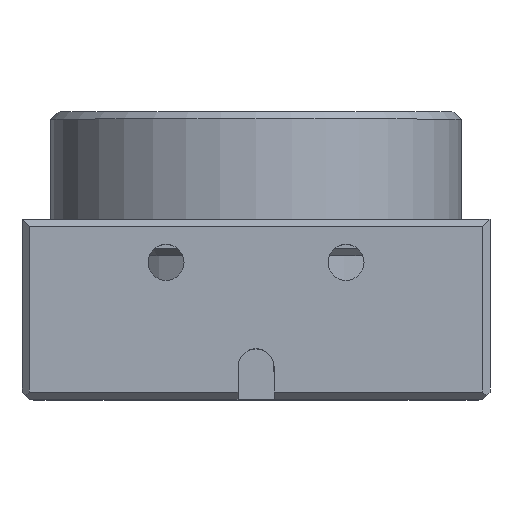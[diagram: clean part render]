
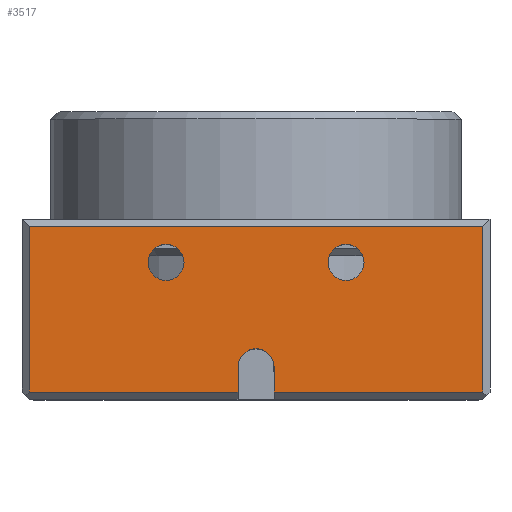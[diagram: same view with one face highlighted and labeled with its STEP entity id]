
A CAD part, top view. The second image highlights one B-rep face of the part: STEP entity #3517.
In plain terms, the highlighted planar face has unit normal (0, 0, 1).
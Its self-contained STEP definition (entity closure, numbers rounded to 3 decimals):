
#232 = LINE ( 'NONE', #4361, #1938 ) ;
#240 = EDGE_CURVE ( 'NONE', #940, #3441, #1480, .T. ) ;
#272 = CARTESIAN_POINT ( 'NONE',  ( -6.5, 5., 5.75 ) ) ;
#334 = AXIS2_PLACEMENT_3D ( 'NONE', #3247, #1044, #3622 ) ;
#402 = EDGE_CURVE ( 'NONE', #4690, #4542, #983, .T. ) ;
#421 = EDGE_LOOP ( 'NONE', ( #4445, #2403, #3190, #2863, #4264, #3535, #1925, #738 ) ) ;
#615 = DIRECTION ( 'NONE',  ( 0., 0., -1. ) ) ;
#617 = CARTESIAN_POINT ( 'NONE',  ( 0.5, 0.9, 5.75 ) ) ;
#619 = VERTEX_POINT ( 'NONE', #617 ) ;
#701 = ORIENTED_EDGE ( 'NONE', *, *, #4704, .F. ) ;
#738 = ORIENTED_EDGE ( 'NONE', *, *, #402, .T. ) ;
#771 = VECTOR ( 'NONE', #3850, 1000. ) ;
#781 = CARTESIAN_POINT ( 'NONE',  ( 2., 3.8, 5.75 ) ) ;
#785 = DIRECTION ( 'NONE',  ( 1., 0., 0. ) ) ;
#861 = DIRECTION ( 'NONE',  ( 0., -1., 0. ) ) ;
#934 = LINE ( 'NONE', #3410, #4625 ) ;
#940 = VERTEX_POINT ( 'NONE', #3873 ) ;
#983 = LINE ( 'NONE', #3518, #1961 ) ;
#1011 = CARTESIAN_POINT ( 'NONE',  ( 2.5, 3.8, 5.75 ) ) ;
#1044 = DIRECTION ( 'NONE',  ( 0., 0., 1. ) ) ;
#1174 = VERTEX_POINT ( 'NONE', #1603 ) ;
#1192 = EDGE_LOOP ( 'NONE', ( #4068, #701 ) ) ;
#1230 = CARTESIAN_POINT ( 'NONE',  ( -0.5, 0., 5.75 ) ) ;
#1355 = CARTESIAN_POINT ( 'NONE',  ( 6.3, 0.2, 5.75 ) ) ;
#1363 = DIRECTION ( 'NONE',  ( 1., 0., 0. ) ) ;
#1454 = CIRCLE ( 'NONE', #334, 0.5 ) ;
#1460 = DIRECTION ( 'NONE',  ( 0., 0., 1. ) ) ;
#1473 = VECTOR ( 'NONE', #785, 1000. ) ;
#1480 = CIRCLE ( 'NONE', #1706, 0.5 ) ;
#1545 = DIRECTION ( 'NONE',  ( 0., 0., 1. ) ) ;
#1593 = ORIENTED_EDGE ( 'NONE', *, *, #3132, .F. ) ;
#1603 = CARTESIAN_POINT ( 'NONE',  ( -0.5, 0.2, 5.75 ) ) ;
#1706 = AXIS2_PLACEMENT_3D ( 'NONE', #4133, #1545, #3760 ) ;
#1755 = ORIENTED_EDGE ( 'NONE', *, *, #240, .F. ) ;
#1759 = DIRECTION ( 'NONE',  ( 0., 1., 0. ) ) ;
#1809 = LINE ( 'NONE', #1355, #3540 ) ;
#1824 = EDGE_CURVE ( 'NONE', #3890, #4690, #1870, .T. ) ;
#1832 = VERTEX_POINT ( 'NONE', #3186 ) ;
#1870 = LINE ( 'NONE', #4317, #771 ) ;
#1925 = ORIENTED_EDGE ( 'NONE', *, *, #1824, .T. ) ;
#1930 = DIRECTION ( 'NONE',  ( 0., 1., 0. ) ) ;
#1938 = VECTOR ( 'NONE', #1759, 1000. ) ;
#1961 = VECTOR ( 'NONE', #2396, 1000. ) ;
#1983 = AXIS2_PLACEMENT_3D ( 'NONE', #272, #615, #3211 ) ;
#2052 = CARTESIAN_POINT ( 'NONE',  ( 0., 0.9, 5.75 ) ) ;
#2123 = EDGE_CURVE ( 'NONE', #4542, #1174, #1809, .T. ) ;
#2243 = EDGE_CURVE ( 'NONE', #2487, #2342, #3028, .T. ) ;
#2280 = FACE_OUTER_BOUND ( 'NONE', #421, .T. ) ;
#2342 = VERTEX_POINT ( 'NONE', #781 ) ;
#2396 = DIRECTION ( 'NONE',  ( 0., -1., 0. ) ) ;
#2403 = ORIENTED_EDGE ( 'NONE', *, *, #3920, .F. ) ;
#2418 = DIRECTION ( 'NONE',  ( 1., 0., 0. ) ) ;
#2420 = VERTEX_POINT ( 'NONE', #4548 ) ;
#2455 = LINE ( 'NONE', #2623, #1473 ) ;
#2458 = PLANE ( 'NONE',  #1983 ) ;
#2487 = VERTEX_POINT ( 'NONE', #2776 ) ;
#2518 = FACE_BOUND ( 'NONE', #1192, .T. ) ;
#2544 = EDGE_LOOP ( 'NONE', ( #1593, #1755 ) ) ;
#2623 = CARTESIAN_POINT ( 'NONE',  ( 6.3, 0.2, 5.75 ) ) ;
#2660 = EDGE_CURVE ( 'NONE', #2870, #3890, #934, .T. ) ;
#2776 = CARTESIAN_POINT ( 'NONE',  ( 3., 3.8, 5.75 ) ) ;
#2857 = AXIS2_PLACEMENT_3D ( 'NONE', #2052, #4635, #2418 ) ;
#2863 = ORIENTED_EDGE ( 'NONE', *, *, #3585, .F. ) ;
#2870 = VERTEX_POINT ( 'NONE', #3118 ) ;
#2926 = CIRCLE ( 'NONE', #2857, 0.5 ) ;
#2933 = CIRCLE ( 'NONE', #3661, 0.5 ) ;
#2988 = AXIS2_PLACEMENT_3D ( 'NONE', #1011, #3580, #1363 ) ;
#3028 = CIRCLE ( 'NONE', #2988, 0.5 ) ;
#3118 = CARTESIAN_POINT ( 'NONE',  ( 6.3, 0.2, 5.75 ) ) ;
#3132 = EDGE_CURVE ( 'NONE', #3441, #940, #2933, .T. ) ;
#3186 = CARTESIAN_POINT ( 'NONE',  ( -0.5, 0.9, 5.75 ) ) ;
#3190 = ORIENTED_EDGE ( 'NONE', *, *, #4077, .F. ) ;
#3211 = DIRECTION ( 'NONE',  ( -1., 0., 0. ) ) ;
#3247 = CARTESIAN_POINT ( 'NONE',  ( 2.5, 3.8, 5.75 ) ) ;
#3253 = EDGE_CURVE ( 'NONE', #2420, #2870, #2455, .T. ) ;
#3379 = VECTOR ( 'NONE', #861, 1000. ) ;
#3410 = CARTESIAN_POINT ( 'NONE',  ( 6.3, 5., 5.75 ) ) ;
#3441 = VERTEX_POINT ( 'NONE', #4622 ) ;
#3517 = ADVANCED_FACE ( 'NONE', ( #2518, #2280, #4252 ), #2458, .F. ) ;
#3518 = CARTESIAN_POINT ( 'NONE',  ( -6.3, 5., 5.75 ) ) ;
#3535 = ORIENTED_EDGE ( 'NONE', *, *, #2660, .T. ) ;
#3540 = VECTOR ( 'NONE', #3887, 1000. ) ;
#3580 = DIRECTION ( 'NONE',  ( 0., 0., 1. ) ) ;
#3585 = EDGE_CURVE ( 'NONE', #2420, #619, #232, .T. ) ;
#3613 = LINE ( 'NONE', #1230, #3379 ) ;
#3622 = DIRECTION ( 'NONE',  ( 1., 0., 0. ) ) ;
#3661 = AXIS2_PLACEMENT_3D ( 'NONE', #3679, #1460, #4048 ) ;
#3679 = CARTESIAN_POINT ( 'NONE',  ( -2.5, 3.8, 5.75 ) ) ;
#3760 = DIRECTION ( 'NONE',  ( 1., 0., 0. ) ) ;
#3848 = CARTESIAN_POINT ( 'NONE',  ( -6.3, 0.2, 5.75 ) ) ;
#3850 = DIRECTION ( 'NONE',  ( -1., 0., 0. ) ) ;
#3873 = CARTESIAN_POINT ( 'NONE',  ( -3., 3.8, 5.75 ) ) ;
#3887 = DIRECTION ( 'NONE',  ( 1., 0., 0. ) ) ;
#3890 = VERTEX_POINT ( 'NONE', #4173 ) ;
#3920 = EDGE_CURVE ( 'NONE', #1832, #1174, #3613, .T. ) ;
#3965 = CARTESIAN_POINT ( 'NONE',  ( -6.3, 4.8, 5.75 ) ) ;
#4048 = DIRECTION ( 'NONE',  ( 1., 0., 0. ) ) ;
#4068 = ORIENTED_EDGE ( 'NONE', *, *, #2243, .F. ) ;
#4077 = EDGE_CURVE ( 'NONE', #619, #1832, #2926, .T. ) ;
#4133 = CARTESIAN_POINT ( 'NONE',  ( -2.5, 3.8, 5.75 ) ) ;
#4173 = CARTESIAN_POINT ( 'NONE',  ( 6.3, 4.8, 5.75 ) ) ;
#4252 = FACE_BOUND ( 'NONE', #2544, .T. ) ;
#4264 = ORIENTED_EDGE ( 'NONE', *, *, #3253, .T. ) ;
#4317 = CARTESIAN_POINT ( 'NONE',  ( -6.5, 4.8, 5.75 ) ) ;
#4361 = CARTESIAN_POINT ( 'NONE',  ( 0.5, 0., 5.75 ) ) ;
#4445 = ORIENTED_EDGE ( 'NONE', *, *, #2123, .T. ) ;
#4542 = VERTEX_POINT ( 'NONE', #3848 ) ;
#4548 = CARTESIAN_POINT ( 'NONE',  ( 0.5, 0.2, 5.75 ) ) ;
#4622 = CARTESIAN_POINT ( 'NONE',  ( -2., 3.8, 5.75 ) ) ;
#4625 = VECTOR ( 'NONE', #1930, 1000. ) ;
#4635 = DIRECTION ( 'NONE',  ( 0., 0., 1. ) ) ;
#4690 = VERTEX_POINT ( 'NONE', #3965 ) ;
#4704 = EDGE_CURVE ( 'NONE', #2342, #2487, #1454, .T. ) ;
